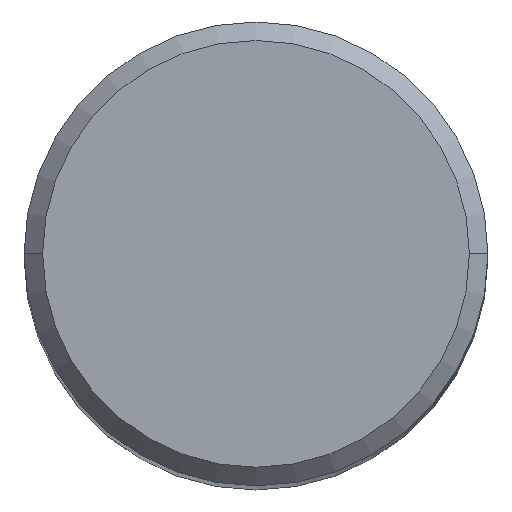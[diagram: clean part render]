
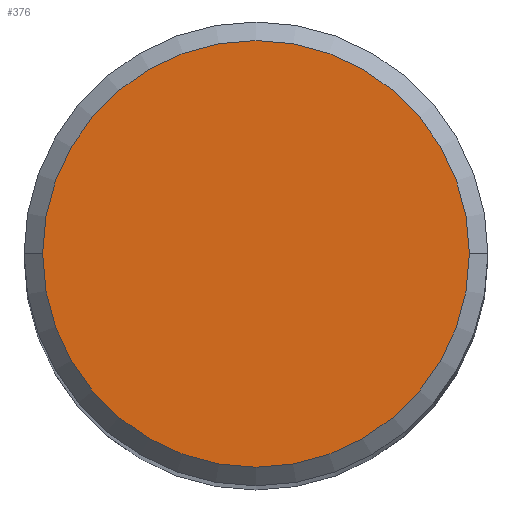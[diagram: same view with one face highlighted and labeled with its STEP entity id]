
A CAD part, top view. The second image highlights one B-rep face of the part: STEP entity #376.
In plain terms, the highlighted planar face has unit normal (0, 0, 1).
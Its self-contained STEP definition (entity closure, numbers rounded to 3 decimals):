
#31 = DIRECTION ( 'NONE',  ( 1., 0., 0. ) ) ;
#36 = CARTESIAN_POINT ( 'NONE',  ( -11.5, 0., 130. ) ) ;
#53 = AXIS2_PLACEMENT_3D ( 'NONE', #126, #308, #31 ) ;
#80 = CIRCLE ( 'NONE', #459, 11.5 ) ;
#116 = DIRECTION ( 'NONE',  ( 1., 0., 0. ) ) ;
#119 = DIRECTION ( 'NONE',  ( 0., 0., 1. ) ) ;
#126 = CARTESIAN_POINT ( 'NONE',  ( 0., 0., 130. ) ) ;
#176 = ORIENTED_EDGE ( 'NONE', *, *, #498, .T. ) ;
#182 = CARTESIAN_POINT ( 'NONE',  ( 0., 0., 130. ) ) ;
#187 = DIRECTION ( 'NONE',  ( 0., 0., 1. ) ) ;
#189 = DIRECTION ( 'NONE',  ( 1., 0., 0. ) ) ;
#237 = AXIS2_PLACEMENT_3D ( 'NONE', #319, #119, #116 ) ;
#245 = CARTESIAN_POINT ( 'NONE',  ( 11.5, 0., 130. ) ) ;
#254 = VERTEX_POINT ( 'NONE', #36 ) ;
#277 = ORIENTED_EDGE ( 'NONE', *, *, #360, .T. ) ;
#302 = PLANE ( 'NONE',  #53 ) ;
#308 = DIRECTION ( 'NONE',  ( 0., 0., 1. ) ) ;
#319 = CARTESIAN_POINT ( 'NONE',  ( 0., 0., 130. ) ) ;
#321 = VERTEX_POINT ( 'NONE', #245 ) ;
#360 = EDGE_CURVE ( 'NONE', #321, #254, #80, .T. ) ;
#376 = ADVANCED_FACE ( 'NONE', ( #490 ), #302, .T. ) ;
#387 = CIRCLE ( 'NONE', #237, 11.5 ) ;
#459 = AXIS2_PLACEMENT_3D ( 'NONE', #182, #187, #189 ) ;
#461 = EDGE_LOOP ( 'NONE', ( #176, #277 ) ) ;
#490 = FACE_OUTER_BOUND ( 'NONE', #461, .T. ) ;
#498 = EDGE_CURVE ( 'NONE', #254, #321, #387, .T. ) ;
